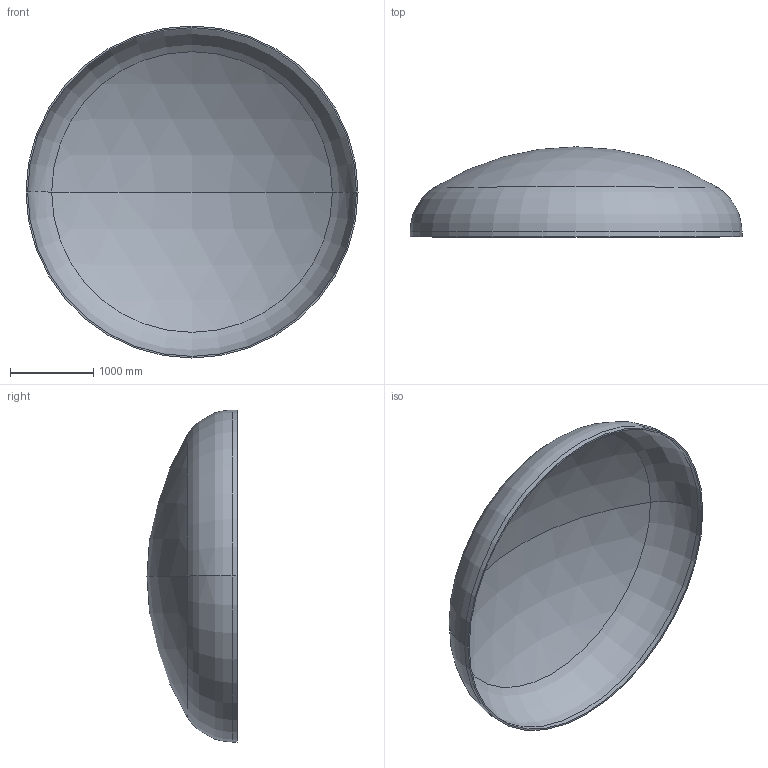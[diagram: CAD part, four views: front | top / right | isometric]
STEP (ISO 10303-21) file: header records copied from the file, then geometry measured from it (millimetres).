
FILE_DESCRIPTION (( 'STEP AP203' ), '1' );
FILE_NAME ('DIN 28013 Korbbogenform_-_Boden DIN 28013 - 4000 x 60 - I - s=19.step', '2016-07-01T22:07:02', ( '' ), ( '' ), 'SwSTEP 2.0', 'SolidWorks 2013', '' );
FILE_SCHEMA (( 'CONFIG_CONTROL_DESIGN' ));
Length unit declared in the file: millimetre
Products named in the file (1): DIN 28013 Korbbogenform_-_Boden DIN 28013 - 4000 x 60 - I - s=19
Bounding box: 4000 x 1084.4 x 4000 mm (x, y, z)
Volume: 342777117.6 mm3; surface area: 36320170.5 mm2
Topology: 1 solids, 1 shells, 13 faces, 24 edges, 14 vertices
Faces by surface type: torus 4, cylinder 4, sphere 4, plane 1
Entity records: 407 total; most frequent: DIRECTION 72, CARTESIAN_POINT 52, ORIENTED_EDGE 48, AXIS2_PLACEMENT_3D 34, EDGE_CURVE 24, CIRCLE 20, EDGE_LOOP 14, VERTEX_POINT 14
